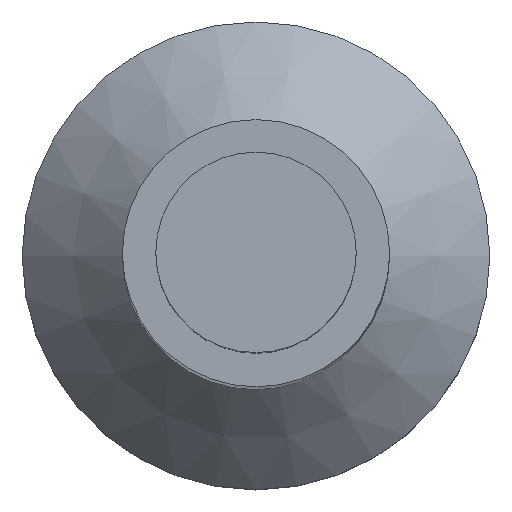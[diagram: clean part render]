
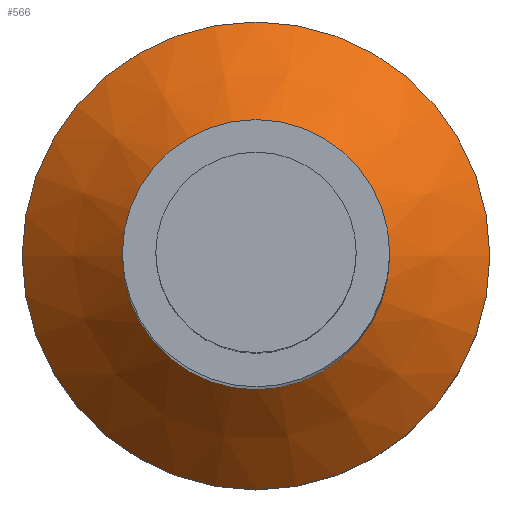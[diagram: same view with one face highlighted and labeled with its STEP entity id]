
A CAD part, top view. The second image highlights one B-rep face of the part: STEP entity #566.
In plain terms, the highlighted conical face has half-angle 45 degrees and reference radius 3.5 mm.
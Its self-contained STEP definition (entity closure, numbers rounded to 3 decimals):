
#43 = CYLINDRICAL_SURFACE('',#44,3.5);
#44 = AXIS2_PLACEMENT_3D('',#45,#46,#47);
#45 = CARTESIAN_POINT('',(0.,0.,0.));
#46 = DIRECTION('',(0.,0.,1.));
#47 = DIRECTION('',(1.,0.,-0.));
#218 = VERTEX_POINT('',#219);
#219 = CARTESIAN_POINT('',(3.5,0.,2.8));
#240 = EDGE_CURVE('',#218,#218,#241,.T.);
#241 = SURFACE_CURVE('',#242,(#247,#254),.PCURVE_S1.);
#242 = CIRCLE('',#243,3.5);
#243 = AXIS2_PLACEMENT_3D('',#244,#245,#246);
#244 = CARTESIAN_POINT('',(0.,0.,2.8));
#245 = DIRECTION('',(0.,0.,1.));
#246 = DIRECTION('',(1.,0.,-0.));
#247 = PCURVE('',#43,#248);
#248 = DEFINITIONAL_REPRESENTATION('',(#249),#253);
#249 = LINE('',#250,#251);
#250 = CARTESIAN_POINT('',(0.,2.8));
#251 = VECTOR('',#252,1.);
#252 = DIRECTION('',(1.,0.));
#253 = ( GEOMETRIC_REPRESENTATION_CONTEXT(2) 
PARAMETRIC_REPRESENTATION_CONTEXT() REPRESENTATION_CONTEXT('2D SPACE',''
  ) );
#254 = PCURVE('',#255,#260);
#255 = CONICAL_SURFACE('',#256,3.5,0.785);
#256 = AXIS2_PLACEMENT_3D('',#257,#258,#259);
#257 = CARTESIAN_POINT('',(0.,0.,2.8));
#258 = DIRECTION('',(-0.,-0.,-1.));
#259 = DIRECTION('',(1.,0.,-0.));
#260 = DEFINITIONAL_REPRESENTATION('',(#261),#265);
#261 = LINE('',#262,#263);
#262 = CARTESIAN_POINT('',(-0.,-0.));
#263 = VECTOR('',#264,1.);
#264 = DIRECTION('',(-1.,-0.));
#265 = ( GEOMETRIC_REPRESENTATION_CONTEXT(2) 
PARAMETRIC_REPRESENTATION_CONTEXT() REPRESENTATION_CONTEXT('2D SPACE',''
  ) );
#566 = ADVANCED_FACE('',(#567),#255,.T.);
#567 = FACE_BOUND('',#568,.T.);
#568 = EDGE_LOOP('',(#569,#570,#593,#620));
#569 = ORIENTED_EDGE('',*,*,#240,.T.);
#570 = ORIENTED_EDGE('',*,*,#571,.T.);
#571 = EDGE_CURVE('',#218,#572,#574,.T.);
#572 = VERTEX_POINT('',#573);
#573 = CARTESIAN_POINT('',(2.,0.,4.3));
#574 = SEAM_CURVE('',#575,(#579,#586),.PCURVE_S1.);
#575 = LINE('',#576,#577);
#576 = CARTESIAN_POINT('',(3.5,0.,2.8));
#577 = VECTOR('',#578,1.);
#578 = DIRECTION('',(-0.707,0.,0.707));
#579 = PCURVE('',#255,#580);
#580 = DEFINITIONAL_REPRESENTATION('',(#581),#585);
#581 = LINE('',#582,#583);
#582 = CARTESIAN_POINT('',(-0.,-0.));
#583 = VECTOR('',#584,1.);
#584 = DIRECTION('',(-0.,-1.));
#585 = ( GEOMETRIC_REPRESENTATION_CONTEXT(2) 
PARAMETRIC_REPRESENTATION_CONTEXT() REPRESENTATION_CONTEXT('2D SPACE',''
  ) );
#586 = PCURVE('',#255,#587);
#587 = DEFINITIONAL_REPRESENTATION('',(#588),#592);
#588 = LINE('',#589,#590);
#589 = CARTESIAN_POINT('',(-6.283,-0.));
#590 = VECTOR('',#591,1.);
#591 = DIRECTION('',(-0.,-1.));
#592 = ( GEOMETRIC_REPRESENTATION_CONTEXT(2) 
PARAMETRIC_REPRESENTATION_CONTEXT() REPRESENTATION_CONTEXT('2D SPACE',''
  ) );
#593 = ORIENTED_EDGE('',*,*,#594,.F.);
#594 = EDGE_CURVE('',#572,#572,#595,.T.);
#595 = SURFACE_CURVE('',#596,(#601,#608),.PCURVE_S1.);
#596 = CIRCLE('',#597,2.);
#597 = AXIS2_PLACEMENT_3D('',#598,#599,#600);
#598 = CARTESIAN_POINT('',(0.,0.,4.3));
#599 = DIRECTION('',(0.,0.,1.));
#600 = DIRECTION('',(1.,0.,-0.));
#601 = PCURVE('',#255,#602);
#602 = DEFINITIONAL_REPRESENTATION('',(#603),#607);
#603 = LINE('',#604,#605);
#604 = CARTESIAN_POINT('',(-0.,-1.5));
#605 = VECTOR('',#606,1.);
#606 = DIRECTION('',(-1.,-0.));
#607 = ( GEOMETRIC_REPRESENTATION_CONTEXT(2) 
PARAMETRIC_REPRESENTATION_CONTEXT() REPRESENTATION_CONTEXT('2D SPACE',''
  ) );
#608 = PCURVE('',#609,#614);
#609 = CYLINDRICAL_SURFACE('',#610,2.);
#610 = AXIS2_PLACEMENT_3D('',#611,#612,#613);
#611 = CARTESIAN_POINT('',(0.,0.,4.3));
#612 = DIRECTION('',(0.,0.,1.));
#613 = DIRECTION('',(1.,0.,-0.));
#614 = DEFINITIONAL_REPRESENTATION('',(#615),#619);
#615 = LINE('',#616,#617);
#616 = CARTESIAN_POINT('',(0.,0.));
#617 = VECTOR('',#618,1.);
#618 = DIRECTION('',(1.,0.));
#619 = ( GEOMETRIC_REPRESENTATION_CONTEXT(2) 
PARAMETRIC_REPRESENTATION_CONTEXT() REPRESENTATION_CONTEXT('2D SPACE',''
  ) );
#620 = ORIENTED_EDGE('',*,*,#571,.F.);
